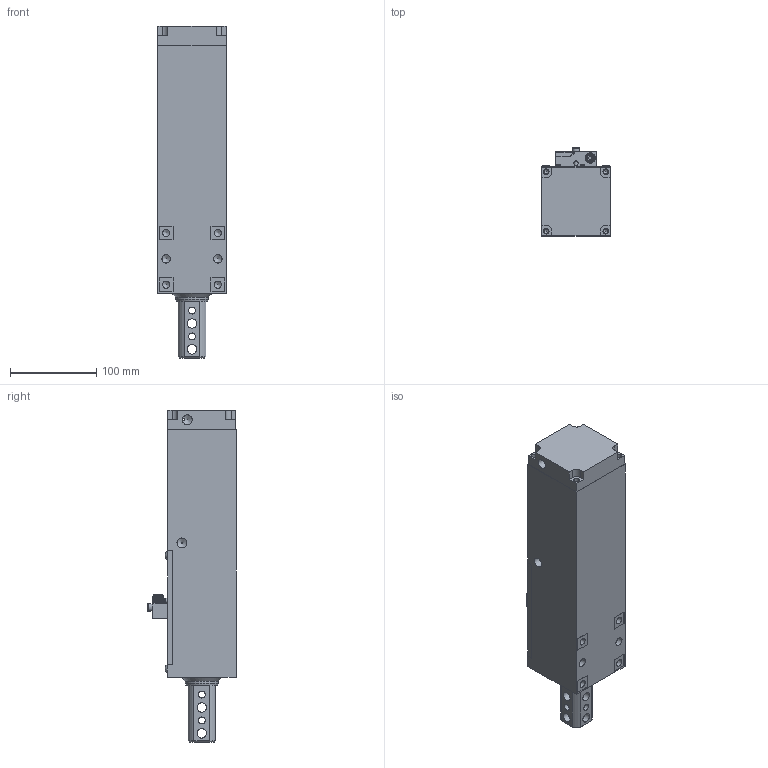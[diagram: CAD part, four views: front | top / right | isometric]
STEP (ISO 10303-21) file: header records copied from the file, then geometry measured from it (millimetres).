
FILE_DESCRIPTION(/* description */ (''),/* implementation_level */ '2;1');
FILE_NAME(/* name */ 'M:\cad\PRODUCT\LSA\LSA - 95\STEP\LSA-95\100mm Stroke\LSA-95 100mm Stroke - Retract.stp',/* time_stamp */ '2018-04-20T08:21:48-04:00',/* author */ ('Tyler'),/* organization */ (''),/* preprocessor_version */ 'ST-DEVELOPER v17',/* originating_system */ 'Autodesk Inventor 2018',/* authorisation */ '');
FILE_SCHEMA (('AUTOMOTIVE_DESIGN { 1 0 10303 214 3 1 1 }'));
Length unit declared in the file: inch
Products named in the file (1): LSA-95 75_100 Stroke - Stripped for STEP_Retract
Bounding box: 80.01 x 102.75 x 385.07 mm (x, y, z)
Volume: 1467816.9 mm3; surface area: 255348.7 mm2
Topology: 2 solids, 2 shells, 485 faces, 1350 edges, 904 vertices
Faces by surface type: plane 229, cylinder 167, cone 77, torus 9, sphere 3
Full cylindrical faces by diameter (mm): 1 x8, 1.191 x1, 1.981 x2, 2 x2, 2.383 x2, 2.464 x1, 3.175 x2, 3.264 x6, 3.302 x1, 4.928 x4, 5 x2, 5.3 x4, 5.5 x2, 6.35 x3, 6.5 x4, 8.019 x8, 8.3 x1, 8.382 x4, 8.5 x1, 9.5 x3, 9.652 x2, 10.02 x2, 10.16 x1, 10.312 x1, 10.5 x1, 10.998 x8, 11.455 x5, 11.76 x1, 11.811 x1, 12 x1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
Entity records: 16898 total; most frequent: CARTESIAN_POINT 3422, DIRECTION 2793, ORIENTED_EDGE 2660, EDGE_CURVE 1330, AXIS2_PLACEMENT_3D 1064, VERTEX_POINT 904, LINE 665, VECTOR 665
